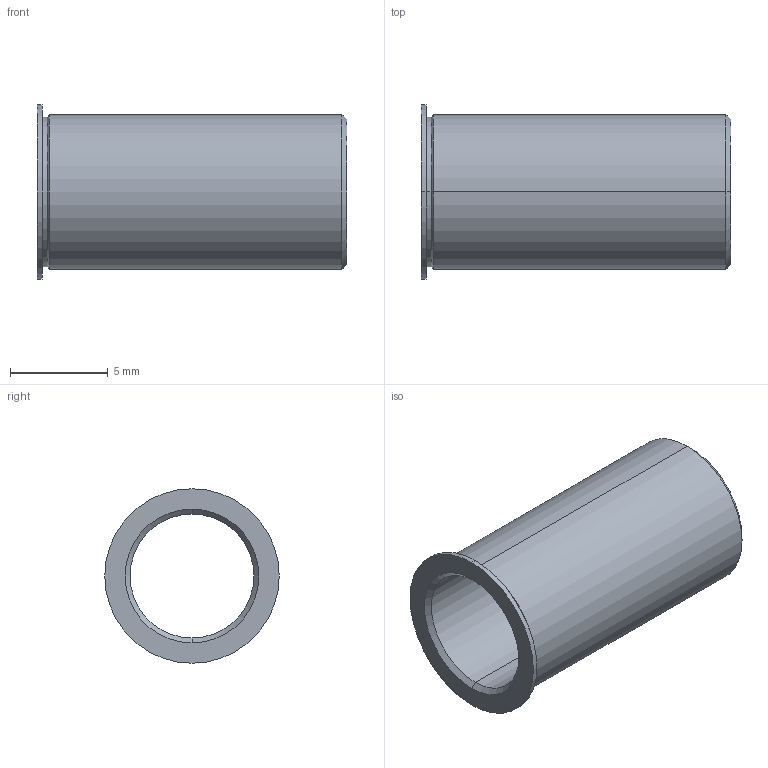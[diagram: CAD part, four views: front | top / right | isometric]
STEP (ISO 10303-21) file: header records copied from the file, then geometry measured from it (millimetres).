
FILE_DESCRIPTION (( 'STEP AP214' ), '1' );
FILE_NAME ('TB250-80-625.STEP', '2013-02-13T15:14:35', ( 'workpc' ), ( 'Microsoft' ), 'SwSTEP 2.0', 'SolidWorks 2013', '' );
FILE_SCHEMA (( 'AUTOMOTIVE_DESIGN' ));
Length unit declared in the file: inch
Products named in the file (1): TB250-80-625
Bounding box: 15.88 x 8.94 x 8.94 mm (x, y, z)
Volume: 283.1 mm3; surface area: 770.2 mm2
Topology: 1 solids, 1 shells, 19 faces, 38 edges, 22 vertices
Faces by surface type: cone 8, cylinder 8, plane 3
Entity records: 564 total; most frequent: DIRECTION 100, CARTESIAN_POINT 80, ORIENTED_EDGE 76, AXIS2_PLACEMENT_3D 42, EDGE_CURVE 38, VERTEX_POINT 22, EDGE_LOOP 22, CIRCLE 22
